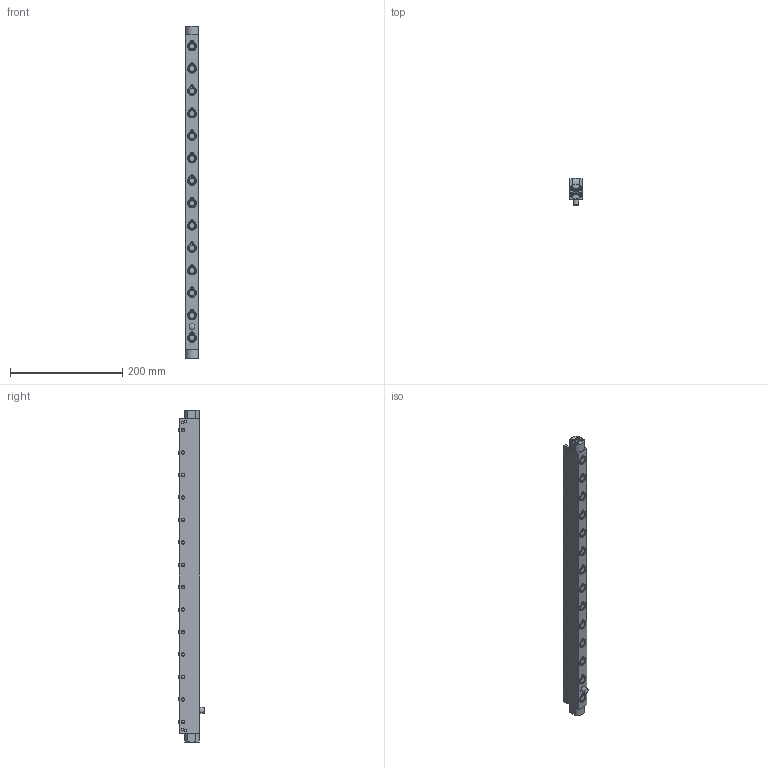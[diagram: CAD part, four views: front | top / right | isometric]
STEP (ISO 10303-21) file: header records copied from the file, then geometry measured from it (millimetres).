
FILE_DESCRIPTION(/* description */ (''),/* implementation_level */ '2;1');
FILE_NAME(/* name */ 'S:\EASCN Vault\Designs\Standard Part\DIE LIFTERS\EHR\EHR- 3D step\EHR22-C - 3D step complete serie\EHR22-14-C.stp',/* time_stamp */ '2019-09-06T13:33:33+08:00',/* author */ ('yue.yang'),/* organization */ (''),/* preprocessor_version */ 'ST-DEVELOPER v17',/* originating_system */ 'Autodesk Inventor 2019',/* authorisation */ '');
FILE_SCHEMA (('AUTOMOTIVE_DESIGN { 1 0 10303 214 3 1 1 }'));
Length unit declared in the file: millimetre
Products named in the file (1): EHR22-14-C_Shrinkwrap_1
Bounding box: 21.8 x 48.05 x 592 mm (x, y, z)
Volume: 357211.9 mm3; surface area: 140757.1 mm2
Topology: 4 solids, 4 shells, 926 faces, 2632 edges, 1828 vertices
Faces by surface type: cylinder 307, plane 269, cone 170, torus 151, sphere 29
Full cylindrical faces by diameter (mm): 3 x10, 3.2 x8, 4 x8, 5 x56, 6 x23, 8.566 x2, 10 x3, 11 x14, 12.5 x28, 13.4 x14, 13.8 x14, 15.95 x28, 16 x39
Entity records: 33967 total; most frequent: CARTESIAN_POINT 7715, DIRECTION 5807, ORIENTED_EDGE 5220, EDGE_CURVE 2610, AXIS2_PLACEMENT_3D 2556, VERTEX_POINT 1828, CIRCLE 1629, EDGE_LOOP 1114
